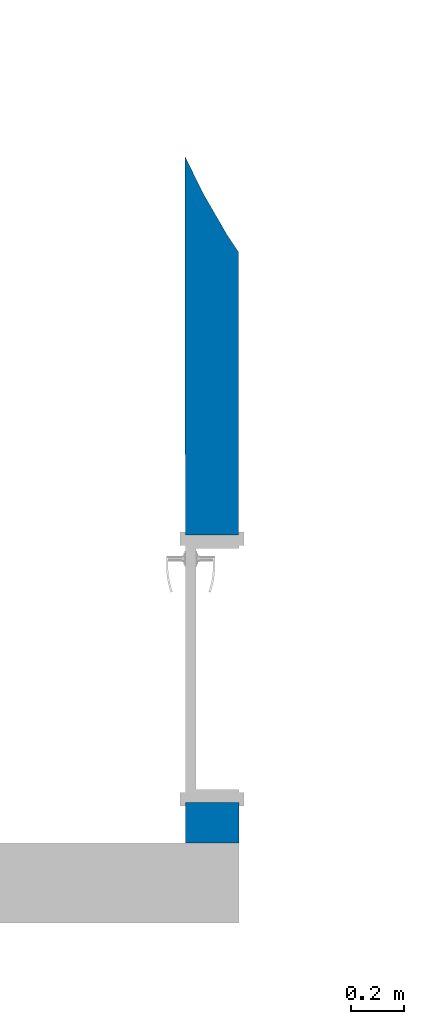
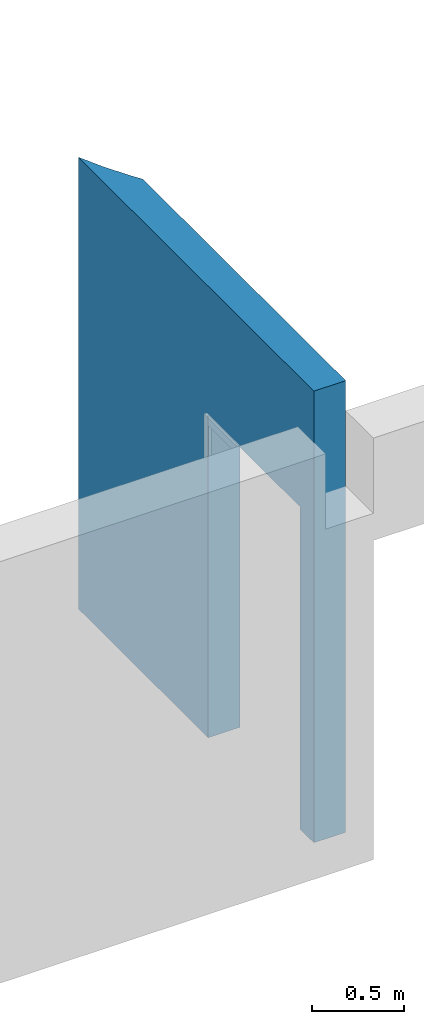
# One storey, part 2 of 6: 1 wall, 1 opening.
"""IFC4 building model written with IfcOpenShell, lengths in millimetres."""

from ifc_helpers import new_model, entity, si_unit, converted_unit, derived_unit, direction, frame, origin_with_axes, place, context, subcontext, project, spatial, polygons, material, constituent, constituent_set, type_object, element, save


model = new_model("IFC4")

# Units and contexts
model_context = context("Model", 3, precision=0.01, world=origin_with_axes(), true_north=direction((0.0, 1.0)))
body_context = subcontext(model_context, "Body", "Model", "MODEL_VIEW")
ifc_project = project(units=[si_unit("LENGTHUNIT", "METRE", prefix="MILLI"), si_unit("AREAUNIT", "SQUARE_METRE"), si_unit("VOLUMEUNIT", "CUBIC_METRE"), converted_unit("PLANEANGLEUNIT", "DEGREE", entity("IfcPlaneAngleMeasure", 0.0174532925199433), si_unit("PLANEANGLEUNIT", "RADIAN"), dimensions=[0, 0, 0, 0, 0, 0, 0]), converted_unit("TIMEUNIT", "Year", entity("IfcTimeMeasure", 31557600.0), si_unit("TIMEUNIT", "SECOND"), dimensions=[0, 0, 1, 0, 0, 0, 0]), si_unit("MASSUNIT", "GRAM", prefix="KILO"), si_unit("THERMODYNAMICTEMPERATUREUNIT", "DEGREE_CELSIUS"), si_unit("LUMINOUSINTENSITYUNIT", "LUMEN"), si_unit("ENERGYUNIT", "JOULE", prefix="MEGA"), derived_unit("THERMALCONDUCTANCEUNIT", [(si_unit("POWERUNIT", "WATT"), 1), (si_unit("LENGTHUNIT", "METRE"), -1), (si_unit("THERMODYNAMICTEMPERATUREUNIT", "KELVIN"), -1)]), derived_unit("SPECIFICHEATCAPACITYUNIT", [(si_unit("ENERGYUNIT", "JOULE"), 1), (si_unit("MASSUNIT", "GRAM", prefix="KILO"), -1), (si_unit("THERMODYNAMICTEMPERATUREUNIT", "KELVIN"), -1)]), derived_unit("MASSDENSITYUNIT", [(si_unit("MASSUNIT", "GRAM", prefix="KILO"), 1), (si_unit("VOLUMEUNIT", "CUBIC_METRE"), -1)])], contexts=[model_context])

# Site, building, storey
site_placement = place(None, origin_with_axes())
site = spatial("IfcSite", under=ifc_project, at=site_placement, Name="Exteriér", CompositionType="ELEMENT")
building_placement = place(site_placement, origin_with_axes())
building = spatial("IfcBuilding", under=site, at=building_placement, Name="Univerzitní lezecké centrum", CompositionType="ELEMENT")
storey_placement = place(building_placement, frame((0.0, 0.0, 6400.0), z_axis=(0.0, 0.0, 1.0), x_axis=(1.0, 0.0, 0.0)))
storey = spatial("IfcBuildingStorey", under=building, at=storey_placement, Name="3.NP", CompositionType="ELEMENT", Elevation=6400.0)

# Wall, opening
ifc_material = material(Name="Beton vyztužený - vnitřní svislé kce")
ifc_constituent = constituent(ifc_material, Name="Beton vyztužený - vnitřní svislé kce")
ifc_constituent_set = constituent_set(constituents=[ifc_constituent], Name="!Vnitřní betonová stěna 200 mm")
wall_type = type_object("IfcWallType", Name="!Vnitřní betonová stěna 200 mm 200", PredefinedType="NOTDEFINED")
wall_placement = place(storey_placement, frame((199.7521361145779, 2610.480756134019, -120.000000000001), z_axis=(0.0, 0.0, 1.0), x_axis=(1.11314403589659e-05, -0.9999999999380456, 0.0)))
wall = element("IfcWall", 1, at=wall_placement, inside=storey, type_object=wall_type, material=ifc_constituent_set, Name="St05", PredefinedType="NOTDEFINED", context=body_context, shape_type="Tessellation", body=[
    polygons([(2460.47861989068, 0.0, 0.4999999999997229), (2460.478528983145, -200.0000000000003, 0.4999999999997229), (2460.480756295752, -200.0000000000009, 120.000000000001), (2460.480756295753, 0.0, 120.000000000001), (2460.480757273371, -0.0001168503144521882, 0.0), (2460.479723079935, -200.0000000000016, 0.0), (2610.478530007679, -200.0000000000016, 0.0), (2610.478530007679, -200.0000000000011, 3000.000000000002), (47.01183823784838, -199.9999999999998, 3000.000000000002), (47.01183823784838, -199.9999999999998, 0.0), (1460.463748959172, -199.9999524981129, 0.0), (1460.463748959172, -199.9999524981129, 120.0000000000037), (1460.480756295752, -200.0000000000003, 120.000000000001), (1460.480756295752, -200.0000000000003, 2140.0), (2460.480756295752, -200.0000000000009, 2140.0), (2460.480756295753, 0.0, 2140.0), (1460.480756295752, 0.0, 2140.0), (1460.480756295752, 0.0, 120.000000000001), (1460.480756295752, 0.0, 0.4999999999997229), (1460.482902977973, 0.0, 0.0), (402.8237185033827, 0.0, 0.0), (402.8237185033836, 0.0, 3000.000000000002), (2610.480756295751, 0.0, 3000.000000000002), (2610.480756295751, 0.0, 0.0), (87.159535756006, -180.0089312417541, 3000.000000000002), (334.7060515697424, -45.31851769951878, 3000.000000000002), (186.2534977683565, -131.0254362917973, 3000.000000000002), (87.159535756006, -180.0089312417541, 0.0), (186.2534977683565, -131.0254362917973, 0.0), (334.7060515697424, -45.31851769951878, 0.0), (1460.480756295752, -22.41494835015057, 120.000000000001), (1460.48075737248, -23.20060854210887, 0.4999999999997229), (1460.48075737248, -23.20060854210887, 40.5000000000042), (1460.480756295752, -22.41494835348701, 40.99999999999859)], [[[1, 2, 3, 4]], [[5, 6, 2, 1]], [[2, 6, 7, 8, 9, 10, 11, 12, 13, 14, 15, 3]], [[4, 3, 15, 16]], [[17, 18, 19, 20, 21, 22, 23, 24, 5, 1, 4, 16]], [[24, 7, 6, 5]], [[23, 8, 7, 24]], [[25, 9, 8, 23, 22, 26, 27]], [[25, 28, 10, 9]], [[10, 28, 29, 30, 21, 20, 11]], [[31, 12, 11, 20, 19, 32, 33, 34]], [[31, 13, 12]], [[17, 14, 13, 31, 18]], [[16, 15, 14, 17]], [[34, 33, 32, 19, 18, 31]], [[22, 21, 30, 26]], [[30, 29, 27, 26]], [[27, 29, 28, 25]]], closed=True),
])
opening_placement = place(wall_placement, frame((1960.480756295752, 0.0, 120.000000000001), z_axis=(0.0, 0.0, 1.0), x_axis=(1.0, 0.0, 0.0)))
element("IfcOpeningElement", 2, at=opening_placement, cuts=wall, Name="D16", context=body_context, identifier="Reference", shape_type="Tessellation", body=[
    polygons([(-499.9999999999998, 1.029058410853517, 2020.0), (500.0000000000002, 1.029058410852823, 2020.0), (500.0000000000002, 1.029058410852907, 0.0), (-499.9999999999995, 1.029058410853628, 0.0), (-511.9999999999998, 1.029058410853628, 0.0), (-511.9999999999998, 1.029058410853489, 2032.0), (512.0000000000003, 1.029058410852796, 2032.0), (512.0000000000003, 1.029058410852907, 0.0), (-499.9999999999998, 0.0, 0.0), (500.0000000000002, 0.0, 0.0), (500.0000000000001, -200.0000000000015, 0.0), (499.9999999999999, -201.0290584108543, 0.0), (-500.0, -201.0290584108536, 0.0), (-499.9999999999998, -200.0000000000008, 0.0), (-511.9999999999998, 0.0, 0.0), (-511.9999999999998, 0.0, 2032.0), (512.0000000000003, 0.0, 2032.0), (512.0000000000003, 0.0, 0.0), (500.0000000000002, 0.0, 2020.0), (500.0000000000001, -200.0000000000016, 2020.0), (512.0000000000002, -200.0000000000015, 0.0), (512.0000000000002, -201.0290584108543, 0.0), (512.0000000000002, -201.0290584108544, 2032.0), (-512.0, -201.0290584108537, 2032.0), (-512.0, -201.0290584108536, 0.0), (-512.0, -200.0000000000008, 0.0), (-499.9999999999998, 0.0, 2020.0), (-500.0, -200.0000000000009, 2020.0), (-512.0, -200.0000000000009, 2032.0), (512.0000000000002, -200.0000000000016, 2032.0)], [[[1, 2, 3, 4]], [[3, 2, 1, 4, 5, 6, 7, 8]], [[9, 4, 3, 10, 11, 12, 13, 14]], [[4, 9, 15, 5]], [[15, 16, 6, 5]], [[16, 17, 7, 6]], [[17, 18, 8, 7]], [[10, 3, 8, 18]], [[10, 19, 20, 11]], [[12, 11, 21, 22]], [[13, 12, 22, 23, 24, 25]], [[14, 13, 25, 26]], [[27, 9, 14, 28]], [[27, 19, 10, 18, 17, 16, 15, 9]], [[19, 27, 28, 20]], [[11, 20, 28, 14, 26, 29, 30, 21]], [[21, 30, 23, 22]], [[30, 29, 24, 23]], [[29, 26, 25, 24]]], closed=True),
])

save(model, "model.ifc")
